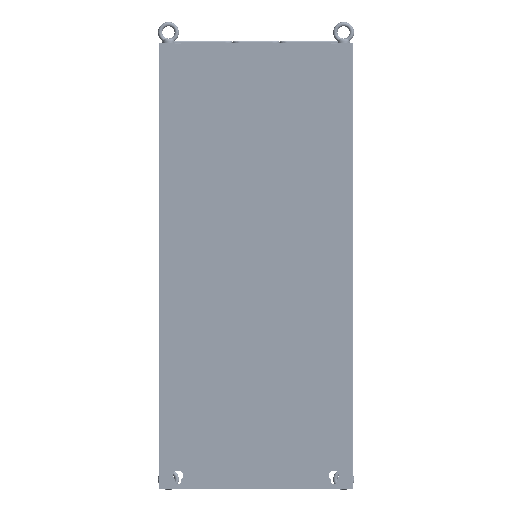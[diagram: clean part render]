
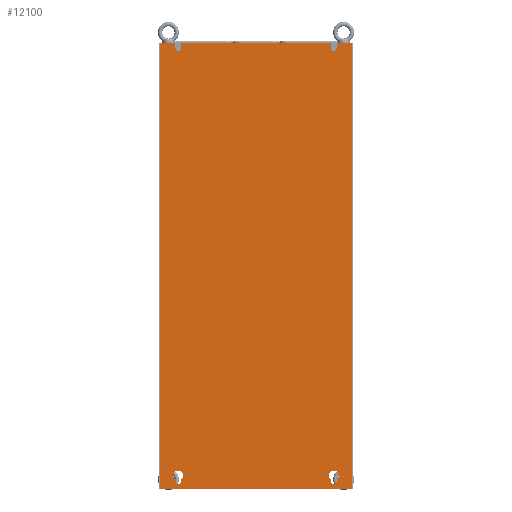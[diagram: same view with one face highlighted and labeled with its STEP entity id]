
A CAD part, front view. The second image highlights one B-rep face of the part: STEP entity #12100.
In plain terms, the highlighted planar face has unit normal (0, -1, 0).
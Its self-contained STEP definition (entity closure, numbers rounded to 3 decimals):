
#1000=DIRECTION('',(0.,0.,-1.));
#1001=VECTOR('',#1000,915.);
#1002=CARTESIAN_POINT('',(-198.,0.,0.));
#1003=LINE('',#1002,#1001);
#2623=CARTESIAN_POINT('',(160.,0.,-10.));
#2624=DIRECTION('',(0.,-1.,0.));
#2625=DIRECTION('',(-1.,0.,0.));
#2626=AXIS2_PLACEMENT_3D('',#2623,#2624,#2625);
#2628=DIRECTION('',(1.,0.,0.));
#2629=VECTOR('',#2628,32.5);
#2630=CARTESIAN_POINT('',(165.5,0.,0.));
#2631=LINE('',#2630,#2629);
#2632=DIRECTION('',(1.,0.,0.));
#2633=VECTOR('',#2632,32.5);
#2634=CARTESIAN_POINT('',(-198.,0.,0.));
#2635=LINE('',#2634,#2633);
#2636=DIRECTION('',(0.,0.,-1.));
#2637=VECTOR('',#2636,10.);
#2638=CARTESIAN_POINT('',(-165.5,0.,0.));
#2639=LINE('',#2638,#2637);
#2640=CARTESIAN_POINT('',(-160.,0.,-10.));
#2641=DIRECTION('',(0.,-1.,0.));
#2642=DIRECTION('',(-1.,0.,0.));
#2643=AXIS2_PLACEMENT_3D('',#2640,#2641,#2642);
#2645=DIRECTION('',(1.,0.,0.));
#2646=VECTOR('',#2645,309.);
#2647=CARTESIAN_POINT('',(-154.5,0.,0.));
#2648=LINE('',#2647,#2646);
#2649=DIRECTION('',(0.,0.,-1.));
#2650=VECTOR('',#2649,10.);
#2651=CARTESIAN_POINT('',(154.5,0.,0.));
#2652=LINE('',#2651,#2650);
#2653=CARTESIAN_POINT('',(160.,0.,-901.));
#2654=DIRECTION('',(0.,-1.,0.));
#2655=DIRECTION('',(-1.,0.,0.));
#2656=AXIS2_PLACEMENT_3D('',#2653,#2654,#2655);
#2658=DIRECTION('',(0.,0.,1.));
#2659=VECTOR('',#2658,4.648);
#2660=CARTESIAN_POINT('',(165.5,0.,-901.));
#2661=LINE('',#2660,#2659);
#2662=CARTESIAN_POINT('',(160.,0.,-888.));
#2663=DIRECTION('',(0.,-1.,0.));
#2664=DIRECTION('',(0.55,0.,-0.835));
#2665=AXIS2_PLACEMENT_3D('',#2662,#2663,#2664);
#2667=CARTESIAN_POINT('',(160.,0.,-888.));
#2668=DIRECTION('',(0.,-1.,0.));
#2669=DIRECTION('',(0.55,0.,0.835));
#2670=AXIS2_PLACEMENT_3D('',#2667,#2668,#2669);
#2672=DIRECTION('',(0.,0.,-1.));
#2673=VECTOR('',#2672,4.648);
#2674=CARTESIAN_POINT('',(154.5,0.,-896.352));
#2675=LINE('',#2674,#2673);
#2676=CARTESIAN_POINT('',(-160.,0.,-901.));
#2677=DIRECTION('',(0.,-1.,0.));
#2678=DIRECTION('',(-1.,0.,0.));
#2679=AXIS2_PLACEMENT_3D('',#2676,#2677,#2678);
#2681=DIRECTION('',(0.,0.,1.));
#2682=VECTOR('',#2681,4.648);
#2683=CARTESIAN_POINT('',(-154.5,0.,-901.));
#2684=LINE('',#2683,#2682);
#2685=CARTESIAN_POINT('',(-160.,0.,-888.));
#2686=DIRECTION('',(0.,-1.,0.));
#2687=DIRECTION('',(0.55,0.,-0.835));
#2688=AXIS2_PLACEMENT_3D('',#2685,#2686,#2687);
#2690=CARTESIAN_POINT('',(-160.,0.,-888.));
#2691=DIRECTION('',(0.,-1.,0.));
#2692=DIRECTION('',(0.55,0.,0.835));
#2693=AXIS2_PLACEMENT_3D('',#2690,#2691,#2692);
#2695=DIRECTION('',(0.,0.,-1.));
#2696=VECTOR('',#2695,4.648);
#2697=CARTESIAN_POINT('',(-165.5,0.,-896.352));
#2698=LINE('',#2697,#2696);
#2699=DIRECTION('',(0.,0.,-1.));
#2700=VECTOR('',#2699,10.);
#2701=CARTESIAN_POINT('',(165.5,0.,0.));
#2702=LINE('',#2701,#2700);
#2729=DIRECTION('',(0.,0.,1.));
#2730=VECTOR('',#2729,915.);
#2731=CARTESIAN_POINT('',(198.,0.,-915.));
#2732=LINE('',#2731,#2730);
#3893=DIRECTION('',(1.,0.,0.));
#3894=VECTOR('',#3893,396.);
#3895=CARTESIAN_POINT('',(-198.,0.,-915.));
#3896=LINE('',#3895,#3894);
#5333=DIRECTION('',(0.,0.,-1.));
#5334=VECTOR('',#5333,10.);
#5335=CARTESIAN_POINT('',(-154.5,0.,0.));
#5336=LINE('',#5335,#5334);
#5785=CARTESIAN_POINT('',(-198.,0.,-915.));
#5786=VERTEX_POINT('',#5785);
#5789=CARTESIAN_POINT('',(-198.,0.,0.));
#5790=VERTEX_POINT('',#5789);
#6200=CARTESIAN_POINT('',(154.5,0.,-10.));
#6201=CARTESIAN_POINT('',(165.5,0.,-10.));
#6202=VERTEX_POINT('',#6200);
#6203=VERTEX_POINT('',#6201);
#6204=CARTESIAN_POINT('',(165.5,0.,0.));
#6205=VERTEX_POINT('',#6204);
#6206=CARTESIAN_POINT('',(198.,0.,0.));
#6207=VERTEX_POINT('',#6206);
#6208=CARTESIAN_POINT('',(198.,0.,-915.));
#6209=VERTEX_POINT('',#6208);
#6210=CARTESIAN_POINT('',(-165.5,0.,0.));
#6211=VERTEX_POINT('',#6210);
#6212=CARTESIAN_POINT('',(-165.5,0.,-10.));
#6213=VERTEX_POINT('',#6212);
#6214=CARTESIAN_POINT('',(-154.5,0.,-10.));
#6215=VERTEX_POINT('',#6214);
#6216=CARTESIAN_POINT('',(-154.5,0.,0.));
#6217=VERTEX_POINT('',#6216);
#6218=CARTESIAN_POINT('',(154.5,0.,0.));
#6219=VERTEX_POINT('',#6218);
#6220=CARTESIAN_POINT('',(154.5,0.,-901.));
#6221=CARTESIAN_POINT('',(165.5,0.,-901.));
#6222=VERTEX_POINT('',#6220);
#6223=VERTEX_POINT('',#6221);
#6224=CARTESIAN_POINT('',(165.5,0.,-896.352));
#6225=VERTEX_POINT('',#6224);
#6226=CARTESIAN_POINT('',(165.5,0.,-879.648));
#6227=VERTEX_POINT('',#6226);
#6228=CARTESIAN_POINT('',(154.5,0.,-896.352));
#6229=VERTEX_POINT('',#6228);
#6230=CARTESIAN_POINT('',(-165.5,0.,-901.));
#6231=CARTESIAN_POINT('',(-154.5,0.,-901.));
#6232=VERTEX_POINT('',#6230);
#6233=VERTEX_POINT('',#6231);
#6234=CARTESIAN_POINT('',(-154.5,0.,-896.352));
#6235=VERTEX_POINT('',#6234);
#6236=CARTESIAN_POINT('',(-154.5,0.,-879.648));
#6237=VERTEX_POINT('',#6236);
#6238=CARTESIAN_POINT('',(-165.5,0.,-896.352));
#6239=VERTEX_POINT('',#6238);
#12047=CARTESIAN_POINT('',(-200.,0.,0.));
#12048=DIRECTION('',(0.,-1.,0.));
#12049=DIRECTION('',(0.,0.,-1.));
#12050=AXIS2_PLACEMENT_3D('',#12047,#12048,#12049);
#12051=PLANE('',#12050);
#12052=ORIENTED_EDGE('',*,*,#12030,.T.);
#12054=ORIENTED_EDGE('',*,*,#12053,.F.);
#12056=ORIENTED_EDGE('',*,*,#12055,.T.);
#12058=ORIENTED_EDGE('',*,*,#12057,.F.);
#12060=ORIENTED_EDGE('',*,*,#12059,.F.);
#12061=ORIENTED_EDGE('',*,*,#7767,.F.);
#12063=ORIENTED_EDGE('',*,*,#12062,.T.);
#12065=ORIENTED_EDGE('',*,*,#12064,.T.);
#12067=ORIENTED_EDGE('',*,*,#12066,.T.);
#12069=ORIENTED_EDGE('',*,*,#12068,.F.);
#12071=ORIENTED_EDGE('',*,*,#12070,.T.);
#12073=ORIENTED_EDGE('',*,*,#12072,.T.);
#12074=EDGE_LOOP('',(#12052,#12054,#12056,#12058,#12060,#12061,#12063,#12065,
#12067,#12069,#12071,#12073));
#12075=FACE_OUTER_BOUND('',#12074,.F.);
#12077=ORIENTED_EDGE('',*,*,#12076,.T.);
#12079=ORIENTED_EDGE('',*,*,#12078,.T.);
#12081=ORIENTED_EDGE('',*,*,#12080,.T.);
#12083=ORIENTED_EDGE('',*,*,#12082,.T.);
#12085=ORIENTED_EDGE('',*,*,#12084,.T.);
#12086=EDGE_LOOP('',(#12077,#12079,#12081,#12083,#12085));
#12087=FACE_BOUND('',#12086,.F.);
#12089=ORIENTED_EDGE('',*,*,#12088,.T.);
#12091=ORIENTED_EDGE('',*,*,#12090,.T.);
#12093=ORIENTED_EDGE('',*,*,#12092,.T.);
#12095=ORIENTED_EDGE('',*,*,#12094,.T.);
#12097=ORIENTED_EDGE('',*,*,#12096,.T.);
#12098=EDGE_LOOP('',(#12089,#12091,#12093,#12095,#12097));
#12099=FACE_BOUND('',#12098,.F.);
#12100=ADVANCED_FACE('',(#12075,#12087,#12099),#12051,.T.);
#2627=CIRCLE('',#2626,5.5);
#2644=CIRCLE('',#2643,5.5);
#2657=CIRCLE('',#2656,5.5);
#2666=CIRCLE('',#2665,10.);
#2671=CIRCLE('',#2670,10.);
#2680=CIRCLE('',#2679,5.5);
#2689=CIRCLE('',#2688,10.);
#2694=CIRCLE('',#2693,10.);
#7767=EDGE_CURVE('',#5790,#5786,#1003,.T.);
#12030=EDGE_CURVE('',#6202,#6203,#2627,.T.);
#12053=EDGE_CURVE('',#6205,#6203,#2702,.T.);
#12055=EDGE_CURVE('',#6205,#6207,#2631,.T.);
#12057=EDGE_CURVE('',#6209,#6207,#2732,.T.);
#12059=EDGE_CURVE('',#5786,#6209,#3896,.T.);
#12062=EDGE_CURVE('',#5790,#6211,#2635,.T.);
#12064=EDGE_CURVE('',#6211,#6213,#2639,.T.);
#12066=EDGE_CURVE('',#6213,#6215,#2644,.T.);
#12068=EDGE_CURVE('',#6217,#6215,#5336,.T.);
#12070=EDGE_CURVE('',#6217,#6219,#2648,.T.);
#12072=EDGE_CURVE('',#6219,#6202,#2652,.T.);
#12076=EDGE_CURVE('',#6222,#6223,#2657,.T.);
#12078=EDGE_CURVE('',#6223,#6225,#2661,.T.);
#12080=EDGE_CURVE('',#6225,#6227,#2666,.T.);
#12082=EDGE_CURVE('',#6227,#6229,#2671,.T.);
#12084=EDGE_CURVE('',#6229,#6222,#2675,.T.);
#12088=EDGE_CURVE('',#6232,#6233,#2680,.T.);
#12090=EDGE_CURVE('',#6233,#6235,#2684,.T.);
#12092=EDGE_CURVE('',#6235,#6237,#2689,.T.);
#12094=EDGE_CURVE('',#6237,#6239,#2694,.T.);
#12096=EDGE_CURVE('',#6239,#6232,#2698,.T.);
